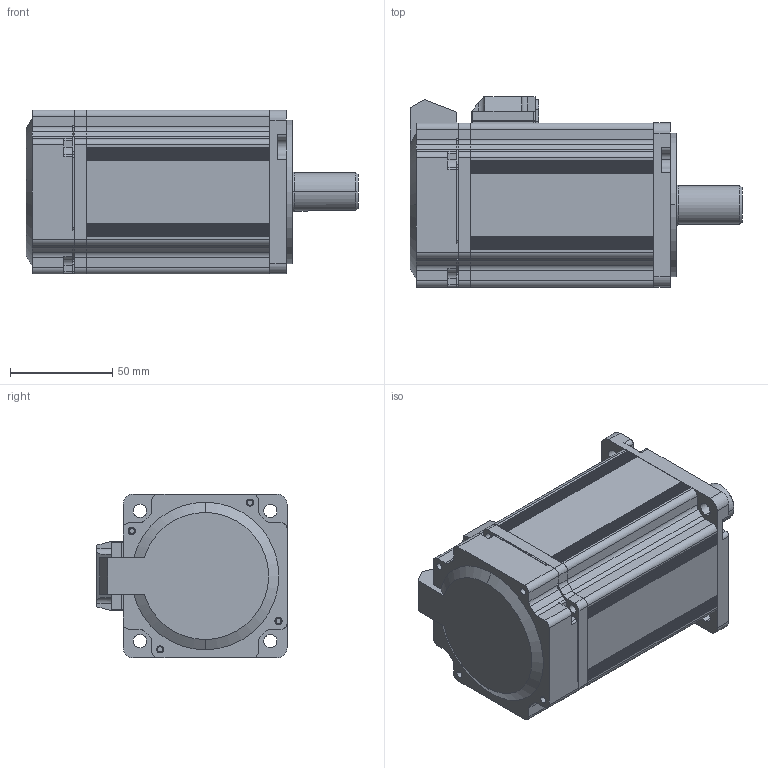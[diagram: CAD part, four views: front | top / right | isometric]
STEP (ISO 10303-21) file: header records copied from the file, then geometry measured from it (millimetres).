
FILE_DESCRIPTION (( 'STEP AP203' ), '1' );
FILE_NAME ('MS6S-80CS(CM)20B2-20P7.STEP', '2020-09-09T07:13:22', ( '' ), ( '' ), 'SwSTEP 2.0', 'SolidWorks 2016', '' );
FILE_SCHEMA (( 'CONFIG_CONTROL_DESIGN' ));
Length unit declared in the file: millimetre
Products named in the file (1): MS6S-80CS(CM)20B2-20P7
Bounding box: 162 x 92.8 x 80 mm (x, y, z)
Surface area: 81171.9 mm2 (no closed solid volume)
Topology: 0 solids, 267 shells, 2199 faces, 7906 edges, 5888 vertices
Faces by surface type: cylinder 1442, plane 657, cone 32, sphere 28, bspline 25, torus 15
Entity records: 86662 total; most frequent: CARTESIAN_POINT 17269, DIRECTION 15926, ORIENTED_EDGE 12155, EDGE_CURVE 7906, AXIS2_PLACEMENT_3D 5931, VERTEX_POINT 5888, VECTOR 4064, LINE 4064
